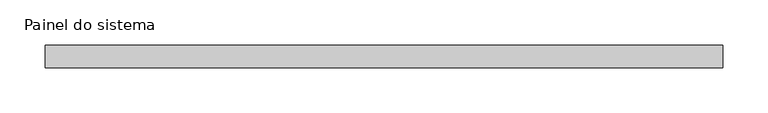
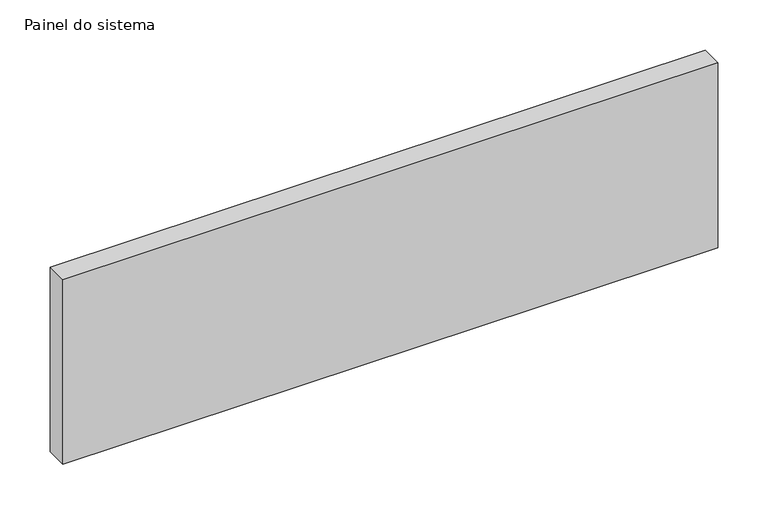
"""IFC4 building model written with IfcOpenShell, lengths in millimetres: plate geometry, Painel do sistema : Envidraçado."""

from ifc_helpers import new_model, si_unit, origin, origin_with_axes, place, context, project, spatial, polyline, outline, extrude, source, transform, mapped, element, save


def painel_do_sistema_cd57ecdb(model_context):
    return source(origin(), model_context, "Body", "SweptSolid", [
        extrude(outline(polyline([(375.0, 24.5), (-375.0, 24.5), (-375.0, 49.5), (375.0, 49.5), (375.0, 24.5)])), origin_with_axes(), (0.0, 0.0, 1.0), 223.6217085),
    ])


if __name__ == "__main__":
    model = new_model("IFC4")
    model_context = context("Model", 3, world=origin())
    ifc_project = project(units=[si_unit("LENGTHUNIT", "METRE", prefix="MILLI")], contexts=[model_context])
    site = spatial("IfcSite", under=ifc_project)
    building = spatial("IfcBuilding", under=site)
    placement = place(None, origin())
    painel_do_sistema_shape = painel_do_sistema_cd57ecdb(model_context)
    element("IfcPlate", 1, ObjectType="Painel do sistema : Envidraçado", at=placement, inside=building, context=model_context, shape_type="MappedRepresentation", body=[
        mapped(painel_do_sistema_shape, transform((0.0, 0.0, 0.0), x_axis=(1.0, 0.0, 0.0), y_axis=(0.0, 1.0, 0.0), z_axis=(0.0, 0.0, 1.0))),
    ])
    save(model, "model.ifc")
